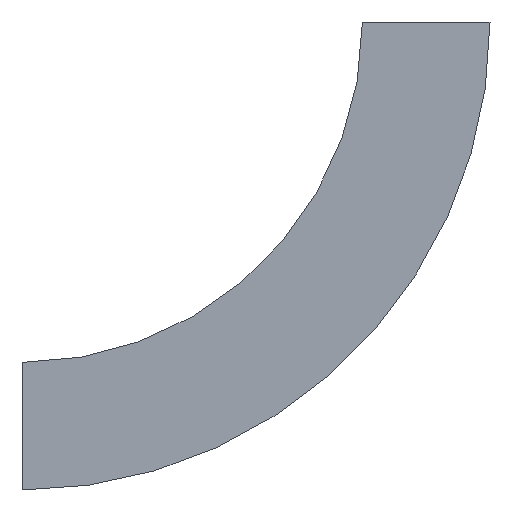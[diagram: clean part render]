
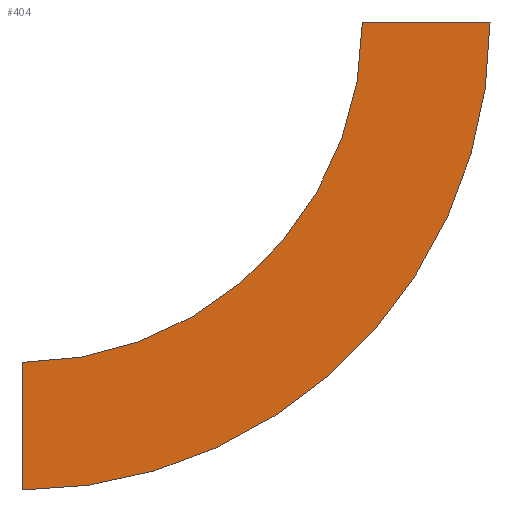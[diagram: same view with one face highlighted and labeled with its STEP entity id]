
A CAD part, left-side view. The second image highlights one B-rep face of the part: STEP entity #404.
In plain terms, the highlighted planar face has unit normal (-1, 0, 0) as drawn and (1, 0, 0) by its records, which use the part's own axes.
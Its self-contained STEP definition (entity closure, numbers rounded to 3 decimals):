
#9 = ORIENTED_EDGE ( 'NONE', *, *, #165, .F. ) ;
#14 = CARTESIAN_POINT ( 'NONE',  ( 0., 300., -300. ) ) ;
#90 = AXIS2_PLACEMENT_3D ( 'NONE', #236, #415, #536 ) ;
#121 = DIRECTION ( 'NONE',  ( 0., 0., 1. ) ) ;
#127 = CARTESIAN_POINT ( 'NONE',  ( 0., 300., -412.5 ) ) ;
#134 = AXIS2_PLACEMENT_3D ( 'NONE', #553, #422, #121 ) ;
#158 = CARTESIAN_POINT ( 'NONE',  ( 0., -112.5, 0. ) ) ;
#165 = EDGE_CURVE ( 'NONE', #369, #546, #344, .T. ) ;
#173 = CARTESIAN_POINT ( 'NONE',  ( 0., 0., 0. ) ) ;
#187 = ORIENTED_EDGE ( 'NONE', *, *, #483, .F. ) ;
#220 = FACE_OUTER_BOUND ( 'NONE', #368, .T. ) ;
#227 = DIRECTION ( 'NONE',  ( 0., -1., 0. ) ) ;
#236 = CARTESIAN_POINT ( 'NONE',  ( 0., 300., 0. ) ) ;
#240 = EDGE_CURVE ( 'NONE', #369, #528, #484, .T. ) ;
#270 = CARTESIAN_POINT ( 'NONE',  ( 0., 300., 0. ) ) ;
#289 = AXIS2_PLACEMENT_3D ( 'NONE', #270, #440, #227 ) ;
#298 = ORIENTED_EDGE ( 'NONE', *, *, #240, .T. ) ;
#321 = ORIENTED_EDGE ( 'NONE', *, *, #424, .T. ) ;
#330 = VERTEX_POINT ( 'NONE', #14 ) ;
#344 = LINE ( 'NONE', #572, #505 ) ;
#361 = CIRCLE ( 'NONE', #289, 300. ) ;
#368 = EDGE_LOOP ( 'NONE', ( #187, #9, #298, #321 ) ) ;
#369 = VERTEX_POINT ( 'NONE', #158 ) ;
#371 = PLANE ( 'NONE',  #134 ) ;
#388 = VECTOR ( 'NONE', #459, 1000. ) ;
#404 = ADVANCED_FACE ( 'NONE', ( #220 ), #371, .F. ) ;
#415 = DIRECTION ( 'NONE',  ( 1., 0., 0. ) ) ;
#422 = DIRECTION ( 'NONE',  ( -1., 0., 0. ) ) ;
#424 = EDGE_CURVE ( 'NONE', #528, #330, #502, .T. ) ;
#440 = DIRECTION ( 'NONE',  ( 1., 0., 0. ) ) ;
#459 = DIRECTION ( 'NONE',  ( 0., 0., 1. ) ) ;
#483 = EDGE_CURVE ( 'NONE', #546, #330, #361, .T. ) ;
#484 = CIRCLE ( 'NONE', #90, 412.5 ) ;
#502 = LINE ( 'NONE', #127, #388 ) ;
#505 = VECTOR ( 'NONE', #527, 1000. ) ;
#527 = DIRECTION ( 'NONE',  ( 0., 1., 0. ) ) ;
#528 = VERTEX_POINT ( 'NONE', #568 ) ;
#536 = DIRECTION ( 'NONE',  ( 0., -1., 0. ) ) ;
#546 = VERTEX_POINT ( 'NONE', #173 ) ;
#553 = CARTESIAN_POINT ( 'NONE',  ( 0., -112.5, 0. ) ) ;
#568 = CARTESIAN_POINT ( 'NONE',  ( 0., 300., -412.5 ) ) ;
#572 = CARTESIAN_POINT ( 'NONE',  ( 0., -112.5, 0. ) ) ;
